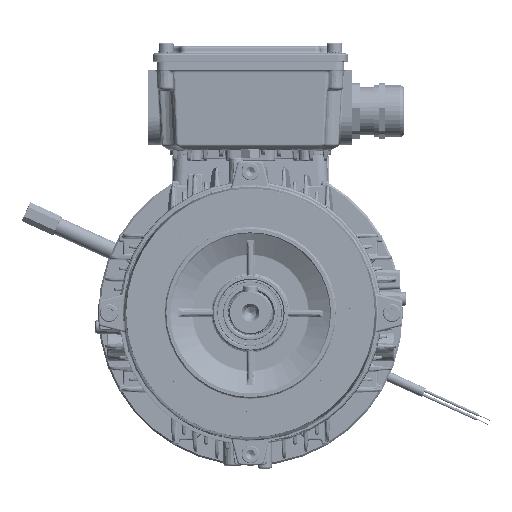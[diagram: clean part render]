
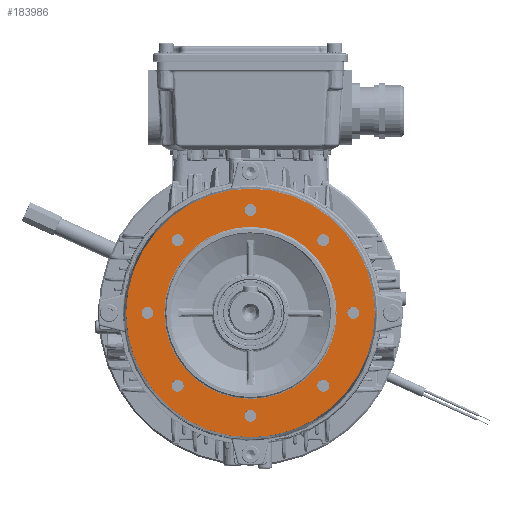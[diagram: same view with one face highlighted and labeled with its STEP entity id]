
A CAD part, top view. The second image highlights one B-rep face of the part: STEP entity #183986.
In plain terms, the highlighted planar face has unit normal (0, 0, 1).
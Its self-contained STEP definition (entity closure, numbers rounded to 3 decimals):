
#11821=FACE_BOUND('',#30362,.T.);
#11822=FACE_BOUND('',#30363,.T.);
#11823=FACE_BOUND('',#30364,.T.);
#11824=FACE_BOUND('',#30365,.T.);
#11825=FACE_BOUND('',#30366,.T.);
#11826=FACE_BOUND('',#30367,.T.);
#11827=FACE_BOUND('',#30368,.T.);
#11828=FACE_BOUND('',#30369,.T.);
#11829=FACE_BOUND('',#30370,.T.);
#14199=PLANE('',#196976);
#19055=FACE_OUTER_BOUND('',#30361,.T.);
#30361=EDGE_LOOP('',(#126038));
#30362=EDGE_LOOP('',(#126039));
#30363=EDGE_LOOP('',(#126040));
#30364=EDGE_LOOP('',(#126041));
#30365=EDGE_LOOP('',(#126042));
#30366=EDGE_LOOP('',(#126043));
#30367=EDGE_LOOP('',(#126044));
#30368=EDGE_LOOP('',(#126045));
#30369=EDGE_LOOP('',(#126046));
#30370=EDGE_LOOP('',(#126047));
#63072=CIRCLE('',#196825,69.4);
#63168=CIRCLE('',#196977,3.324);
#63169=CIRCLE('',#196978,3.324);
#63170=CIRCLE('',#196979,3.324);
#63171=CIRCLE('',#196980,3.324);
#63172=CIRCLE('',#196981,3.324);
#63173=CIRCLE('',#196982,3.324);
#63174=CIRCLE('',#196983,3.324);
#63175=CIRCLE('',#196984,3.324);
#63176=CIRCLE('',#196985,48.1);
#74769=VERTEX_POINT('',#317954);
#74893=VERTEX_POINT('',#319083);
#74894=VERTEX_POINT('',#319085);
#74895=VERTEX_POINT('',#319087);
#74896=VERTEX_POINT('',#319089);
#74897=VERTEX_POINT('',#319091);
#74898=VERTEX_POINT('',#319093);
#74899=VERTEX_POINT('',#319095);
#74900=VERTEX_POINT('',#319097);
#74901=VERTEX_POINT('',#319099);
#93414=EDGE_CURVE('',#74769,#74769,#63072,.T.);
#93614=EDGE_CURVE('',#74893,#74893,#63168,.T.);
#93615=EDGE_CURVE('',#74894,#74894,#63169,.T.);
#93616=EDGE_CURVE('',#74895,#74895,#63170,.T.);
#93617=EDGE_CURVE('',#74896,#74896,#63171,.T.);
#93618=EDGE_CURVE('',#74897,#74897,#63172,.T.);
#93619=EDGE_CURVE('',#74898,#74898,#63173,.T.);
#93620=EDGE_CURVE('',#74899,#74899,#63174,.T.);
#93621=EDGE_CURVE('',#74900,#74900,#63175,.T.);
#93622=EDGE_CURVE('',#74901,#74901,#63176,.T.);
#126038=ORIENTED_EDGE('',*,*,#93414,.F.);
#126039=ORIENTED_EDGE('',*,*,#93614,.T.);
#126040=ORIENTED_EDGE('',*,*,#93615,.T.);
#126041=ORIENTED_EDGE('',*,*,#93616,.T.);
#126042=ORIENTED_EDGE('',*,*,#93617,.T.);
#126043=ORIENTED_EDGE('',*,*,#93618,.T.);
#126044=ORIENTED_EDGE('',*,*,#93619,.T.);
#126045=ORIENTED_EDGE('',*,*,#93620,.T.);
#126046=ORIENTED_EDGE('',*,*,#93621,.T.);
#126047=ORIENTED_EDGE('',*,*,#93622,.F.);
#183986=ADVANCED_FACE('',(#19055,#11821,#11822,#11823,#11824,#11825,#11826,
#11827,#11828,#11829),#14199,.F.);
#196825=AXIS2_PLACEMENT_3D('',#317956,#225099,#225100);
#196976=AXIS2_PLACEMENT_3D('',#319082,#225459,#225460);
#196977=AXIS2_PLACEMENT_3D('',#319084,#225461,#225462);
#196978=AXIS2_PLACEMENT_3D('',#319086,#225463,#225464);
#196979=AXIS2_PLACEMENT_3D('',#319088,#225465,#225466);
#196980=AXIS2_PLACEMENT_3D('',#319090,#225467,#225468);
#196981=AXIS2_PLACEMENT_3D('',#319092,#225469,#225470);
#196982=AXIS2_PLACEMENT_3D('',#319094,#225471,#225472);
#196983=AXIS2_PLACEMENT_3D('',#319096,#225473,#225474);
#196984=AXIS2_PLACEMENT_3D('',#319098,#225475,#225476);
#196985=AXIS2_PLACEMENT_3D('',#319100,#225477,#225478);
#225099=DIRECTION('center_axis',(0.,0.,
-1.));
#225100=DIRECTION('ref_axis',(-1.,0.,0.));
#225459=DIRECTION('center_axis',(0.,0.,
-1.));
#225460=DIRECTION('ref_axis',(-1.,0.,0.));
#225461=DIRECTION('center_axis',(0.,0.,
-1.));
#225462=DIRECTION('ref_axis',(-0.707,0.707,0.));
#225463=DIRECTION('center_axis',(0.,0.,
-1.));
#225464=DIRECTION('ref_axis',(-1.,0.,0.));
#225465=DIRECTION('center_axis',(0.,0.,
-1.));
#225466=DIRECTION('ref_axis',(-0.707,-0.707,0.));
#225467=DIRECTION('center_axis',(0.,0.,
-1.));
#225468=DIRECTION('ref_axis',(0.,-1.,0.));
#225469=DIRECTION('center_axis',(0.,0.,
-1.));
#225470=DIRECTION('ref_axis',(0.707,-0.707,0.));
#225471=DIRECTION('center_axis',(0.,0.,
-1.));
#225472=DIRECTION('ref_axis',(1.,0.,0.));
#225473=DIRECTION('center_axis',(0.,0.,
-1.));
#225474=DIRECTION('ref_axis',(0.707,0.707,0.));
#225475=DIRECTION('center_axis',(0.,0.,
-1.));
#225476=DIRECTION('ref_axis',(0.,1.,0.));
#225477=DIRECTION('center_axis',(0.,0.,
1.));
#225478=DIRECTION('ref_axis',(1.,0.,0.));
#317954=CARTESIAN_POINT('',(69.4,0.,201.));
#317956=CARTESIAN_POINT('Origin',(0.,0.,
201.));
#319082=CARTESIAN_POINT('Origin',(-61.807,0.,
201.));
#319083=CARTESIAN_POINT('',(2.35,-59.85,201.));
#319084=CARTESIAN_POINT('Origin',(0.,-57.5,
201.));
#319085=CARTESIAN_POINT('',(43.982,-40.659,201.));
#319086=CARTESIAN_POINT('Origin',(40.659,-40.659,201.));
#319087=CARTESIAN_POINT('',(59.85,2.35,201.));
#319088=CARTESIAN_POINT('Origin',(57.5,0.,
201.));
#319089=CARTESIAN_POINT('',(40.659,43.982,201.));
#319090=CARTESIAN_POINT('Origin',(40.659,40.659,201.));
#319091=CARTESIAN_POINT('',(-2.35,59.85,201.));
#319092=CARTESIAN_POINT('Origin',(0.,57.5,
201.));
#319093=CARTESIAN_POINT('',(-43.982,40.659,201.));
#319094=CARTESIAN_POINT('Origin',(-40.659,40.659,201.));
#319095=CARTESIAN_POINT('',(-59.85,-2.35,201.));
#319096=CARTESIAN_POINT('Origin',(-57.5,0.,
201.));
#319097=CARTESIAN_POINT('',(-40.659,-43.982,201.));
#319098=CARTESIAN_POINT('Origin',(-40.659,-40.659,201.));
#319099=CARTESIAN_POINT('',(-48.1,0.,201.));
#319100=CARTESIAN_POINT('Origin',(0.,0.,
201.));
